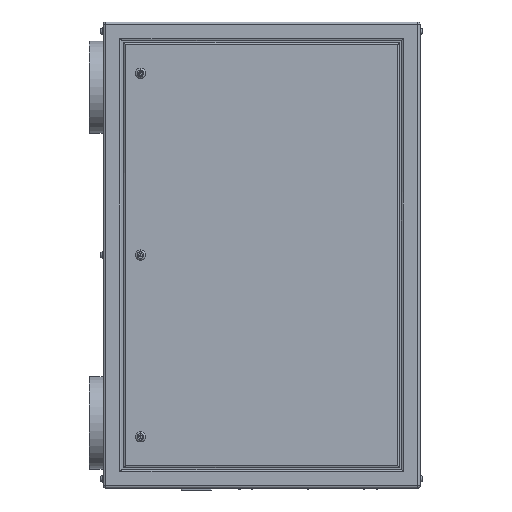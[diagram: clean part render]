
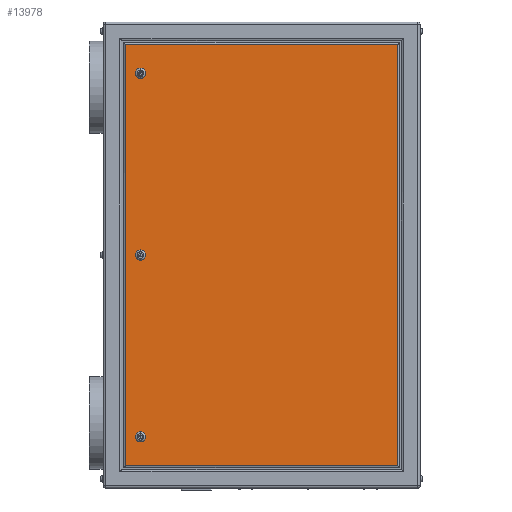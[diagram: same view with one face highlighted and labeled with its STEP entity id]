
A CAD part, left-side view. The second image highlights one B-rep face of the part: STEP entity #13978.
In plain terms, the highlighted planar face has unit normal (-1, 0, 0).
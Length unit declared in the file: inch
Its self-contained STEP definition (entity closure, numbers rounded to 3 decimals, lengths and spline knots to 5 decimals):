
#143 = CIRCLE ( 'NONE', #9825, 0.55 ) ;
#162 = VERTEX_POINT ( 'NONE', #10977 ) ;
#516 = AXIS2_PLACEMENT_3D ( 'NONE', #7386, #877, #11180 ) ;
#604 = VERTEX_POINT ( 'NONE', #6256 ) ;
#813 = VERTEX_POINT ( 'NONE', #14526 ) ;
#877 = DIRECTION ( 'NONE',  ( 1., 0., 0. ) ) ;
#1079 = CARTESIAN_POINT ( 'NONE',  ( -11., 13., 0. ) ) ;
#1125 = PLANE ( 'NONE',  #9271 ) ;
#1430 = CARTESIAN_POINT ( 'NONE',  ( -11., -14.6, -25. ) ) ;
#1762 = LINE ( 'NONE', #7055, #3455 ) ;
#1919 = FACE_BOUND ( 'NONE', #3828, .T. ) ;
#2134 = AXIS2_PLACEMENT_3D ( 'NONE', #4971, #11816, #2390 ) ;
#2167 = CARTESIAN_POINT ( 'NONE',  ( -11., 17., -25. ) ) ;
#2390 = DIRECTION ( 'NONE',  ( 0., 0., -1. ) ) ;
#2391 = CARTESIAN_POINT ( 'NONE',  ( -11., 13., 20.05 ) ) ;
#2419 = CIRCLE ( 'NONE', #2134, 0.55 ) ;
#2485 = EDGE_CURVE ( 'NONE', #813, #8062, #143, .T. ) ;
#2569 = CARTESIAN_POINT ( 'NONE',  ( -11., 14.6, -22.6 ) ) ;
#2672 = CIRCLE ( 'NONE', #16775, 0.55 ) ;
#2823 = VERTEX_POINT ( 'NONE', #4623 ) ;
#2849 = DIRECTION ( 'NONE',  ( 0., -1., 0. ) ) ;
#2983 = DIRECTION ( 'NONE',  ( 0., 0., -1. ) ) ;
#3155 = DIRECTION ( 'NONE',  ( 0., 1., 0. ) ) ;
#3455 = VECTOR ( 'NONE', #3155, 39.37008 ) ;
#3511 = ORIENTED_EDGE ( 'NONE', *, *, #11918, .T. ) ;
#3535 = EDGE_CURVE ( 'NONE', #10555, #14319, #2419, .T. ) ;
#3828 = EDGE_LOOP ( 'NONE', ( #10247, #4567 ) ) ;
#3876 = DIRECTION ( 'NONE',  ( 0., 0., -1. ) ) ;
#4567 = ORIENTED_EDGE ( 'NONE', *, *, #2485, .T. ) ;
#4603 = FACE_OUTER_BOUND ( 'NONE', #8088, .T. ) ;
#4623 = CARTESIAN_POINT ( 'NONE',  ( -11., -14.6, -22.6 ) ) ;
#4636 = ORIENTED_EDGE ( 'NONE', *, *, #12977, .T. ) ;
#4693 = AXIS2_PLACEMENT_3D ( 'NONE', #14898, #5755, #2983 ) ;
#4754 = CARTESIAN_POINT ( 'NONE',  ( -11., 13., -0.55 ) ) ;
#4971 = CARTESIAN_POINT ( 'NONE',  ( -11., 13., -19.5 ) ) ;
#5225 = VERTEX_POINT ( 'NONE', #2569 ) ;
#5320 = DIRECTION ( 'NONE',  ( 0., 0., -1. ) ) ;
#5329 = EDGE_CURVE ( 'NONE', #14603, #604, #6901, .T. ) ;
#5564 = CARTESIAN_POINT ( 'NONE',  ( -11., 13., 19.5 ) ) ;
#5640 = EDGE_CURVE ( 'NONE', #604, #14603, #12167, .T. ) ;
#5696 = ORIENTED_EDGE ( 'NONE', *, *, #5640, .T. ) ;
#5755 = DIRECTION ( 'NONE',  ( 1., 0., 0. ) ) ;
#5916 = VECTOR ( 'NONE', #9394, 39.37008 ) ;
#6256 = CARTESIAN_POINT ( 'NONE',  ( -11., 13., 18.95 ) ) ;
#6362 = LINE ( 'NONE', #10529, #9076 ) ;
#6365 = DIRECTION ( 'NONE',  ( 1., 0., 0. ) ) ;
#6471 = CARTESIAN_POINT ( 'NONE',  ( -11., 13., -18.95 ) ) ;
#6749 = EDGE_CURVE ( 'NONE', #2823, #6939, #6971, .T. ) ;
#6901 = CIRCLE ( 'NONE', #4693, 0.55 ) ;
#6939 = VERTEX_POINT ( 'NONE', #13120 ) ;
#6971 = LINE ( 'NONE', #1430, #5916 ) ;
#7055 = CARTESIAN_POINT ( 'NONE',  ( -11., 17., 22.6 ) ) ;
#7386 = CARTESIAN_POINT ( 'NONE',  ( -11., 13., -19.5 ) ) ;
#8062 = VERTEX_POINT ( 'NONE', #4754 ) ;
#8088 = EDGE_LOOP ( 'NONE', ( #13632, #13484, #4636, #3511 ) ) ;
#8488 = DIRECTION ( 'NONE',  ( 0., 0., -1. ) ) ;
#8810 = EDGE_CURVE ( 'NONE', #14319, #10555, #17147, .T. ) ;
#9076 = VECTOR ( 'NONE', #5320, 39.37008 ) ;
#9271 = AXIS2_PLACEMENT_3D ( 'NONE', #2167, #11597, #11685 ) ;
#9291 = ORIENTED_EDGE ( 'NONE', *, *, #5329, .T. ) ;
#9394 = DIRECTION ( 'NONE',  ( 0., 0., 1. ) ) ;
#9418 = CARTESIAN_POINT ( 'NONE',  ( -11., 13., -20.05 ) ) ;
#9667 = AXIS2_PLACEMENT_3D ( 'NONE', #5564, #13682, #8488 ) ;
#9825 = AXIS2_PLACEMENT_3D ( 'NONE', #9899, #16596, #14996 ) ;
#9899 = CARTESIAN_POINT ( 'NONE',  ( -11., 13., 0. ) ) ;
#9928 = VECTOR ( 'NONE', #2849, 39.37008 ) ;
#10247 = ORIENTED_EDGE ( 'NONE', *, *, #14622, .T. ) ;
#10529 = CARTESIAN_POINT ( 'NONE',  ( -11., 14.6, -25. ) ) ;
#10555 = VERTEX_POINT ( 'NONE', #9418 ) ;
#10977 = CARTESIAN_POINT ( 'NONE',  ( -11., 14.6, 22.6 ) ) ;
#11166 = FACE_BOUND ( 'NONE', #16856, .T. ) ;
#11180 = DIRECTION ( 'NONE',  ( 0., 0., -1. ) ) ;
#11597 = DIRECTION ( 'NONE',  ( 1., 0., 0. ) ) ;
#11685 = DIRECTION ( 'NONE',  ( 0., 0., -1. ) ) ;
#11707 = EDGE_LOOP ( 'NONE', ( #15664, #16281 ) ) ;
#11816 = DIRECTION ( 'NONE',  ( 1., 0., 0. ) ) ;
#11918 = EDGE_CURVE ( 'NONE', #162, #5225, #6362, .T. ) ;
#12167 = CIRCLE ( 'NONE', #9667, 0.55 ) ;
#12977 = EDGE_CURVE ( 'NONE', #6939, #162, #1762, .T. ) ;
#13120 = CARTESIAN_POINT ( 'NONE',  ( -11., -14.6, 22.6 ) ) ;
#13484 = ORIENTED_EDGE ( 'NONE', *, *, #6749, .T. ) ;
#13632 = ORIENTED_EDGE ( 'NONE', *, *, #17013, .T. ) ;
#13682 = DIRECTION ( 'NONE',  ( 1., 0., 0. ) ) ;
#13757 = FACE_BOUND ( 'NONE', #11707, .T. ) ;
#13978 = ADVANCED_FACE ( 'NONE', ( #13757, #1919, #11166, #4603 ), #1125, .F. ) ;
#14319 = VERTEX_POINT ( 'NONE', #6471 ) ;
#14363 = LINE ( 'NONE', #16097, #9928 ) ;
#14526 = CARTESIAN_POINT ( 'NONE',  ( -11., 13., 0.55 ) ) ;
#14603 = VERTEX_POINT ( 'NONE', #2391 ) ;
#14622 = EDGE_CURVE ( 'NONE', #8062, #813, #2672, .T. ) ;
#14898 = CARTESIAN_POINT ( 'NONE',  ( -11., 13., 19.5 ) ) ;
#14996 = DIRECTION ( 'NONE',  ( 0., 0., -1. ) ) ;
#15664 = ORIENTED_EDGE ( 'NONE', *, *, #3535, .T. ) ;
#16097 = CARTESIAN_POINT ( 'NONE',  ( -11., 17., -22.6 ) ) ;
#16281 = ORIENTED_EDGE ( 'NONE', *, *, #8810, .T. ) ;
#16596 = DIRECTION ( 'NONE',  ( 1., 0., 0. ) ) ;
#16775 = AXIS2_PLACEMENT_3D ( 'NONE', #1079, #6365, #3876 ) ;
#16856 = EDGE_LOOP ( 'NONE', ( #5696, #9291 ) ) ;
#17013 = EDGE_CURVE ( 'NONE', #5225, #2823, #14363, .T. ) ;
#17147 = CIRCLE ( 'NONE', #516, 0.55 ) ;
